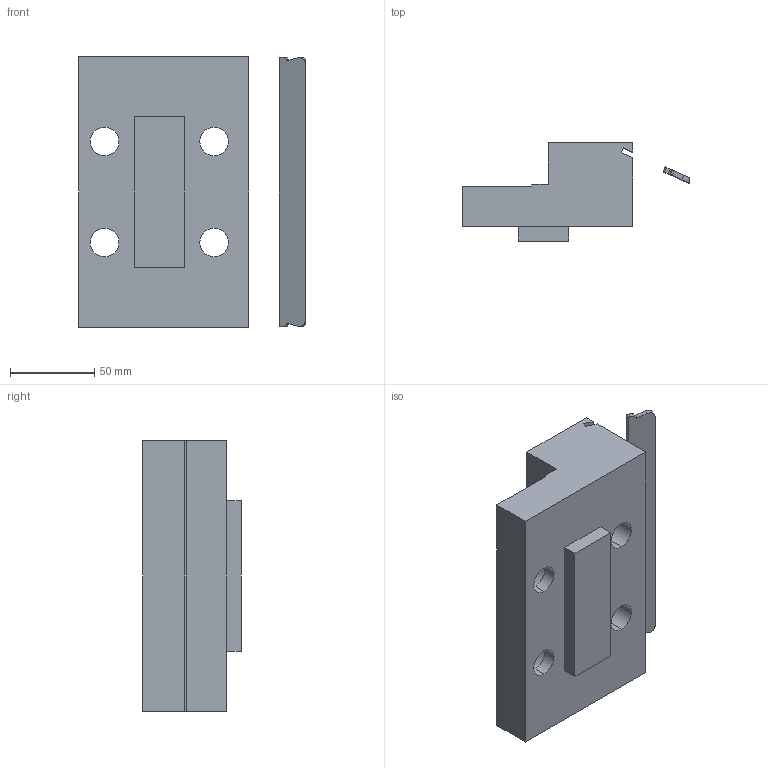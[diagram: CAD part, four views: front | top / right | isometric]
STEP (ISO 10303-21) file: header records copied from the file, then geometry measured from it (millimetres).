
FILE_DESCRIPTION (( 'STEP AP203' ), '1' );
FILE_NAME ('6921704102040_Niederzugbacke_NC160_Mobil.STEP', '2009-03-12T10:37:07', ( 'Markus Römer' ), ( '' ), 'SwSTEP 2.0', 'SolidWorks 2008', '' );
FILE_SCHEMA (( 'CONFIG_CONTROL_DESIGN' ));
Length unit declared in the file: millimetre
Products named in the file (1): 6921704102040_Niederzugbacke_NC160_Mobil
Bounding box: 134.72 x 58.4 x 160.4 mm (x, y, z)
Volume: 573855.9 mm3; surface area: 73965.2 mm2
Topology: 2 solids, 2 shells, 57 faces, 144 edges, 96 vertices
Faces by surface type: plane 33, cylinder 24
Entity records: 1817 total; most frequent: DIRECTION 306, CARTESIAN_POINT 304, ORIENTED_EDGE 288, EDGE_CURVE 144, AXIS2_PLACEMENT_3D 106, VERTEX_POINT 96, VECTOR 94, LINE 94
